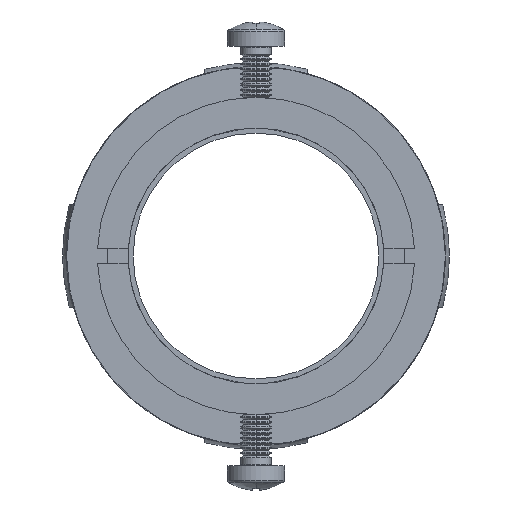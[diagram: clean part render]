
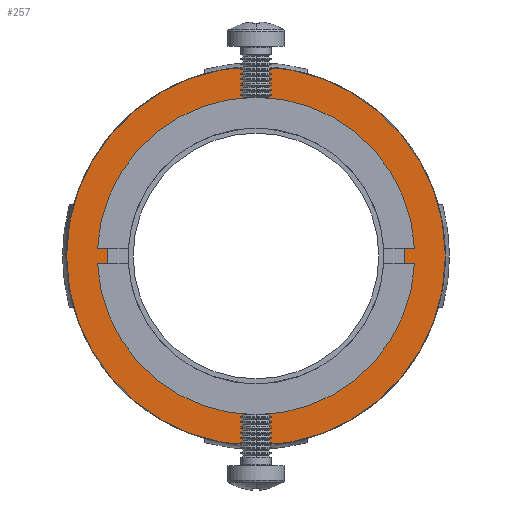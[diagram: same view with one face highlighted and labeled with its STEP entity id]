
A CAD part, front view. The second image highlights one B-rep face of the part: STEP entity #257.
In plain terms, the highlighted planar face has unit normal (0, -1, 0).
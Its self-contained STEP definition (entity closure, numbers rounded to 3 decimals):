
#257 = ADVANCED_FACE ( 'NONE', ( #4000, #860 ), #965, .T. ) ;
#398 = CARTESIAN_POINT ( 'NONE',  ( 0., 15., -14.5 ) ) ;
#855 = ORIENTED_EDGE ( 'NONE', *, *, #8032, .F. ) ;
#860 = FACE_BOUND ( 'NONE', #12102, .T. ) ;
#965 = PLANE ( 'NONE',  #13614 ) ;
#1152 = DIRECTION ( 'NONE',  ( 0., 0., -1. ) ) ;
#1171 = AXIS2_PLACEMENT_3D ( 'NONE', #6493, #1815, #5340 ) ;
#1468 = EDGE_CURVE ( 'NONE', #11089, #11000, #7809, .T. ) ;
#1510 = DIRECTION ( 'NONE',  ( 0., 0., -1. ) ) ;
#1536 = DIRECTION ( 'NONE',  ( 0., -1., 0. ) ) ;
#1559 = CARTESIAN_POINT ( 'NONE',  ( 0., 15., 0. ) ) ;
#1815 = DIRECTION ( 'NONE',  ( 0., -1., 0. ) ) ;
#2132 = VERTEX_POINT ( 'NONE', #3871 ) ;
#3490 = AXIS2_PLACEMENT_3D ( 'NONE', #1559, #1536, #1510 ) ;
#3871 = CARTESIAN_POINT ( 'NONE',  ( 0., 15., 14.5 ) ) ;
#3998 = ORIENTED_EDGE ( 'NONE', *, *, #1468, .T. ) ;
#4000 = FACE_OUTER_BOUND ( 'NONE', #6935, .T. ) ;
#4794 = VERTEX_POINT ( 'NONE', #398 ) ;
#5340 = DIRECTION ( 'NONE',  ( 0., 0., -1. ) ) ;
#6001 = EDGE_CURVE ( 'NONE', #11000, #11089, #7354, .T. ) ;
#6493 = CARTESIAN_POINT ( 'NONE',  ( 0., 15., 0. ) ) ;
#6935 = EDGE_LOOP ( 'NONE', ( #3998, #14939 ) ) ;
#7040 = DIRECTION ( 'NONE',  ( 0., -1., 0. ) ) ;
#7117 = CARTESIAN_POINT ( 'NONE',  ( 0., 15., -18.5 ) ) ;
#7354 = CIRCLE ( 'NONE', #9811, 18.5 ) ;
#7519 = DIRECTION ( 'NONE',  ( 0., 0., -1. ) ) ;
#7605 = EDGE_CURVE ( 'NONE', #2132, #4794, #8015, .T. ) ;
#7809 = CIRCLE ( 'NONE', #3490, 18.5 ) ;
#8015 = CIRCLE ( 'NONE', #10421, 14.5 ) ;
#8032 = EDGE_CURVE ( 'NONE', #4794, #2132, #10209, .T. ) ;
#8455 = DIRECTION ( 'NONE',  ( 0., 0., -1. ) ) ;
#8474 = DIRECTION ( 'NONE',  ( 0., -1., 0. ) ) ;
#8478 = CARTESIAN_POINT ( 'NONE',  ( 0., 15., 0. ) ) ;
#9028 = CARTESIAN_POINT ( 'NONE',  ( 0., 15., 0. ) ) ;
#9811 = AXIS2_PLACEMENT_3D ( 'NONE', #8478, #8474, #8455 ) ;
#10209 = CIRCLE ( 'NONE', #1171, 14.5 ) ;
#10421 = AXIS2_PLACEMENT_3D ( 'NONE', #9028, #7040, #7519 ) ;
#10492 = DIRECTION ( 'NONE',  ( 0., -1., 0. ) ) ;
#11000 = VERTEX_POINT ( 'NONE', #15123 ) ;
#11089 = VERTEX_POINT ( 'NONE', #7117 ) ;
#11888 = CARTESIAN_POINT ( 'NONE',  ( 14.5, 15., 0. ) ) ;
#12102 = EDGE_LOOP ( 'NONE', ( #855, #12280 ) ) ;
#12280 = ORIENTED_EDGE ( 'NONE', *, *, #7605, .F. ) ;
#13614 = AXIS2_PLACEMENT_3D ( 'NONE', #11888, #10492, #1152 ) ;
#14939 = ORIENTED_EDGE ( 'NONE', *, *, #6001, .T. ) ;
#15123 = CARTESIAN_POINT ( 'NONE',  ( 0., 15., 18.5 ) ) ;
